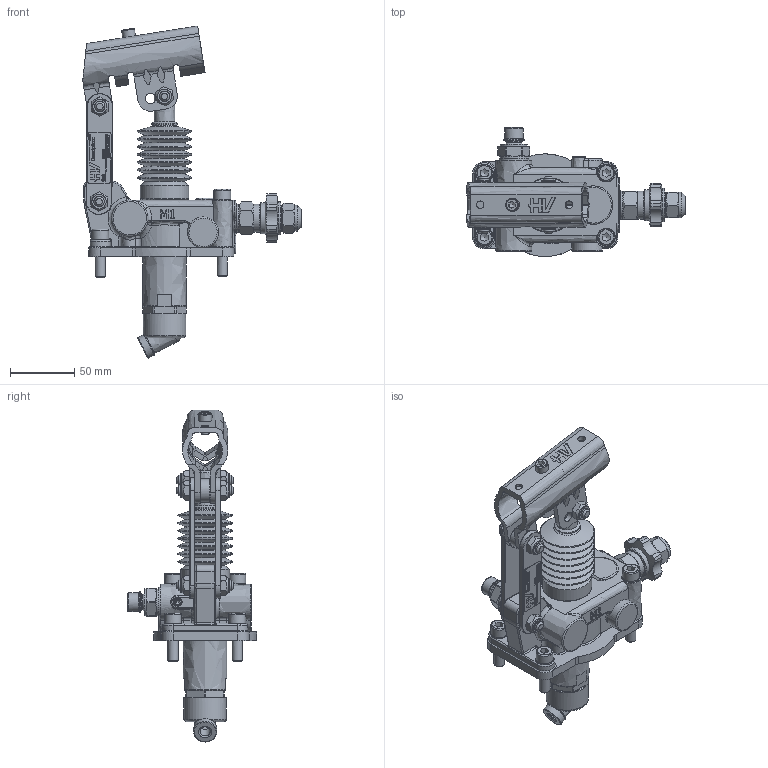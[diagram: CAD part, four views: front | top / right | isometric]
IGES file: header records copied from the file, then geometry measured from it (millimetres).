
Global section: file name: No Iges File Name specified; native system: Autodesk Inventor 2013; preprocessor: AutoDesk Inventor Iges Exporter R2013; author: christian.scardovi; date: 20240326.071917; units: millimetre
Bounding box: 170.2 x 100.49 x 258.56 mm (x, y, z)
Volume: 472814 mm3; surface area: 120609.6 mm2
Topology: 3 solids, 3 shells, 1492 faces, 3789 edges, 2400 vertices
Faces by surface type: bspline 1492
